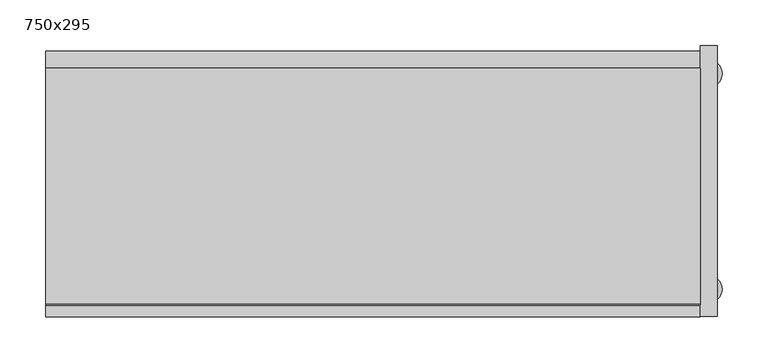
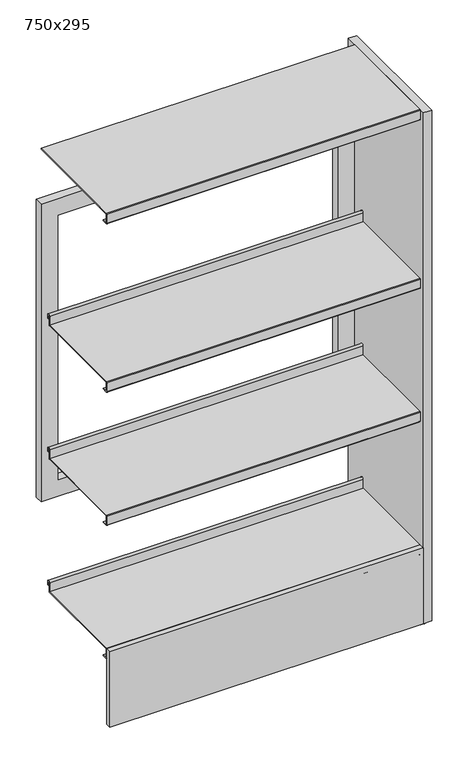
"""IFC4 building model written with IfcOpenShell, lengths in millimetres: furniture geometry, BK Library - Rondus EF - 1240 : 750x295."""

import ifcopenshell
import ifcopenshell.guid

model = None  # the IFC model being written
_history = None  # IfcOwnerHistory: only IFC2X3 demands one
_inside = {}  # id of a spatial element -> (the spatial element, [elements in it])
_under = {}  # id of a project, library or spatial element -> (it, [spatial elements below it])
_declared = {}  # id of a project -> (the project, [libraries it declares])
_typed = {}  # id of a type object -> (the type object, [elements of that type])
_made_of = {}  # id of a material, layer set ... -> (it, [elements and type objects made of it])


def new_model(schema):
    """Start an empty IFC model of exactly this schema.

    Asked for "IFC4X3", IfcOpenShell would pick the latest addendum, in which some entities
    have other attributes; the version numbers below select the first issue.
    IFC2X3 requires an IfcOwnerHistory on every rooted entity: one is made here for all.
    """
    global model, _history
    if schema == "IFC4X3":
        model = ifcopenshell.file(schema_version=(4, 3, 0, 0))
    else:
        model = ifcopenshell.file(schema=schema)
    _inside.clear()
    _under.clear()
    _declared.clear()
    _typed.clear()
    _made_of.clear()
    _history = None
    if model.schema == "IFC2X3":
        org = make("IfcOrganization", Name="unknown")
        user = make(
            "IfcPersonAndOrganization",
            ThePerson=make("IfcPerson", FamilyName="unknown"),
            TheOrganization=org,
        )
        app = make(
            "IfcApplication",
            ApplicationDeveloper=org,
            Version="unknown",
            ApplicationFullName="unknown",
            ApplicationIdentifier="unknown",
        )
        _history = make(
            "IfcOwnerHistory",
            OwningUser=user,
            OwningApplication=app,
            ChangeAction="ADDED",
            CreationDate=0,
        )
    return model


def make(cls, **values):
    """One entity of the class cls with the attributes given. An attribute that is None is left unset."""
    return model.create_entity(
        cls, **{name: value for name, value in values.items() if value is not None}
    )


def rooted(cls, **values):
    """An entity with a GlobalId (a new one), such as an element, a storey or a relation."""
    return make(cls, GlobalId=ifcopenshell.guid.new(), OwnerHistory=_history, **values)


def si_unit(unit_type, name, prefix=None):
    """IfcSIUnit, for example si_unit("LENGTHUNIT", "METRE", prefix="MILLI")."""
    return make("IfcSIUnit", UnitType=unit_type, Prefix=prefix, Name=name)


def assignment(units):
    """IfcUnitAssignment: the units of a project."""
    return None if units is None else make("IfcUnitAssignment", Units=units)


def point(xyz):
    """IfcCartesianPoint."""
    return None if xyz is None else make("IfcCartesianPoint", Coordinates=xyz)


def direction(xyz):
    """IfcDirection."""
    return None if xyz is None else make("IfcDirection", DirectionRatios=xyz)


def frame(location, z_axis=None, x_axis=None):
    """IfcAxis2Placement3D, a coordinate frame: its origin and axes. An axis left out is left unset."""
    return make(
        "IfcAxis2Placement3D",
        Location=point(location),
        Axis=direction(z_axis),
        RefDirection=direction(x_axis),
    )


def frame_2d(location, x_axis=None):
    """IfcAxis2Placement2D, a coordinate frame in the plane: its origin and x axis."""
    return make(
        "IfcAxis2Placement2D", Location=point(location), RefDirection=direction(x_axis)
    )


def origin():
    """The frame at (0, 0, 0) with its axes left unset."""
    return frame((0.0, 0.0, 0.0))


def origin_with_axes():
    """The frame at (0, 0, 0) with the z axis (0, 0, 1) and the x axis (1, 0, 0) written out."""
    return frame((0.0, 0.0, 0.0), z_axis=(0.0, 0.0, 1.0), x_axis=(1.0, 0.0, 0.0))


def place(relative_to, where):
    """IfcLocalPlacement: puts the frame where relative to a parent placement (None: the world)."""
    return make(
        "IfcLocalPlacement", PlacementRelTo=relative_to, RelativePlacement=where
    )


def context(
    kind, dimensions, precision=None, world=None, true_north=None, identifier=None
):
    """IfcGeometricRepresentationContext, for example the 3D "Model" context."""
    return make(
        "IfcGeometricRepresentationContext",
        ContextIdentifier=identifier,
        ContextType=kind,
        CoordinateSpaceDimension=dimensions,
        Precision=precision,
        WorldCoordinateSystem=world,
        TrueNorth=true_north,
    )


def project(units=None, contexts=None):
    """IfcProject with its units and contexts."""
    return rooted(
        "IfcProject",
        Name="project",
        RepresentationContexts=contexts,
        UnitsInContext=assignment(units),
    )


def spatial(cls, under=None, at=None, **own):
    """A site, building, storey or space (cls), placed at a placement, below another one or the project."""
    s = rooted(cls, ObjectPlacement=at, **own)
    if under is not None:
        _under.setdefault(under.id(), (under, []))[1].append(s)
    return s


def polyline(points):
    """IfcPolyline through the points."""
    return make("IfcPolyline", Points=[point(p) for p in points])


def circle_curve(where, radius):
    """IfcCircle in the frame where."""
    return make("IfcCircle", Position=where, Radius=radius)


def trimmed(basis, trim1, trim2, sense, master):
    """IfcTrimmedCurve: the piece of a basis curve between two trims."""
    return make(
        "IfcTrimmedCurve",
        BasisCurve=basis,
        Trim1=trim1,
        Trim2=trim2,
        SenseAgreement=sense,
        MasterRepresentation=master,
    )


def segment(curve, same_sense, transition):
    """IfcCompositeCurveSegment."""
    return make(
        "IfcCompositeCurveSegment",
        Transition=transition,
        SameSense=same_sense,
        ParentCurve=curve,
    )


def composite_curve(segments, self_intersect=None):
    """IfcCompositeCurve: segments joined end to end."""
    return make("IfcCompositeCurve", Segments=segments, SelfIntersect=self_intersect)


def outline(outer, holes=None, kind="AREA"):
    """IfcArbitraryClosedProfileDef: a profile drawn as a closed curve; with holes, ...WithVoids."""
    if holes is None:
        return make("IfcArbitraryClosedProfileDef", ProfileType=kind, OuterCurve=outer)
    return make(
        "IfcArbitraryProfileDefWithVoids",
        ProfileType=kind,
        OuterCurve=outer,
        InnerCurves=holes,
    )


def extrude(swept, where, along, depth):
    """IfcExtrudedAreaSolid: the profile swept, set in the frame where, extruded along a direction by depth."""
    return make(
        "IfcExtrudedAreaSolid",
        SweptArea=swept,
        Position=where,
        ExtrudedDirection=direction(along),
        Depth=depth,
    )


def shape(context_of_items, identifier, shape_type, items):
    """IfcShapeRepresentation: the items that make up one representation, for example the "Body"."""
    return make(
        "IfcShapeRepresentation",
        ContextOfItems=context_of_items,
        RepresentationIdentifier=identifier,
        RepresentationType=shape_type,
        Items=items,
    )


def source(mapping_origin, context_of_items, identifier, shape_type, items):
    """IfcRepresentationMap: a shape defined once, which mapped items show again and again."""
    return make(
        "IfcRepresentationMap",
        MappingOrigin=mapping_origin,
        MappedRepresentation=shape(context_of_items, identifier, shape_type, items),
    )


def transform(
    local_origin,
    x_axis=None,
    y_axis=None,
    z_axis=None,
    scale=None,
    scale2=None,
    scale3=None,
    uniform=True,
):
    """IfcCartesianTransformationOperator3D, or its non-uniform kind. x_axis, y_axis, z_axis: its Axis1, 2, 3."""
    if uniform:
        return make(
            "IfcCartesianTransformationOperator3D",
            Axis1=direction(x_axis),
            Axis2=direction(y_axis),
            LocalOrigin=point(local_origin),
            Scale=scale,
            Axis3=direction(z_axis),
        )
    return make(
        "IfcCartesianTransformationOperator3DnonUniform",
        Axis1=direction(x_axis),
        Axis2=direction(y_axis),
        LocalOrigin=point(local_origin),
        Scale=scale,
        Axis3=direction(z_axis),
        Scale2=scale2,
        Scale3=scale3,
    )


def mapped(mapping_source, mapping_target):
    """IfcMappedItem: shows the shape of a source again, moved by a transform."""
    return make(
        "IfcMappedItem", MappingSource=mapping_source, MappingTarget=mapping_target
    )


def made_of(thing, what):
    """Note that an element or type object is made of a material, layer set ...; save() writes the relation."""
    if what is not None:
        _made_of.setdefault(what.id(), (what, []))[1].append(thing)
    return thing


def element(
    cls,
    number,
    at=None,
    inside=None,
    cuts=None,
    type_object=None,
    material=None,
    context=None,
    identifier="Body",
    shape_type=None,
    held_by="IfcProductDefinitionShape",
    body=None,
    shapes=None,
    **own,
):
    """One element of the class cls, such as IfcWall. Its Tag is "e" and its number.

    at: its placement. inside: the storey or other place that contains it. cuts: it is an
    opening in that element (IfcRelVoidsElement). A single representation is given by context,
    identifier, shape_type and body (its items); several are given by shapes. held_by: the class
    of the entity that holds the representations. save() writes the other relations.
    """
    e = rooted(cls, Tag="e%d" % number, ObjectPlacement=at, **own)
    if body is not None:
        shapes = [shape(context, identifier, shape_type, body)]
    if shapes is not None:
        e.Representation = make(held_by, Representations=shapes)
    if inside is not None:
        _inside.setdefault(inside.id(), (inside, []))[1].append(e)
    if cuts is not None:
        rooted(
            "IfcRelVoidsElement", RelatingBuildingElement=cuts, RelatedOpeningElement=e
        )
    if type_object is not None:
        _typed.setdefault(type_object.id(), (type_object, []))[1].append(e)
    return made_of(e, material)


def aggregate(whole, parts):
    """IfcRelAggregates: a whole, such as a stair, and the parts it consists of."""
    return rooted("IfcRelAggregates", RelatingObject=whole, RelatedObjects=parts)


def save(model, path):
    """Write the relations noted so far, then the file.

    IfcRelAggregates (storeys below a building ...), IfcRelContainedInSpatialStructure (elements
    in a storey), IfcRelDefinesByType, IfcRelAssociatesMaterial and IfcRelDeclares: one each for
    every whole, place, type object, material and project.
    """
    for whole, parts in _under.values():
        aggregate(whole, parts)
    for where, things in _inside.values():
        rooted(
            "IfcRelContainedInSpatialStructure",
            RelatedElements=things,
            RelatingStructure=where,
        )
    for kind, things in _typed.values():
        rooted("IfcRelDefinesByType", RelatedObjects=things, RelatingType=kind)
    for what, things in _made_of.values():
        rooted("IfcRelAssociatesMaterial", RelatedObjects=things, RelatingMaterial=what)
    for by, libraries in _declared.values():
        rooted("IfcRelDeclares", RelatingContext=by, RelatedDefinitions=libraries)
    model.write(path)


def furniture_750x295_23b6f23a(model_context):
    return source(origin(), model_context, "Body", "SweptSolid", [
        extrude(outline(polyline([(1106.1999512, -356.0), (391.1999512, -356.0), (391.1999512, 356.0), (1106.1999512, 356.0), (1106.1999512, -356.0)]), holes=[polyline([(1066.1999514, -317.5), (1066.1999514, 317.5), (431.1999514, 317.5), (431.1999514, -317.5), (1066.1999514, -317.5)])]), frame((0.0, 123.0, 0.0), z_axis=(0.0, 1.0, 0.0), x_axis=(0.0, 0.0, 1.0)), (0.0, 0.0, 1.0), 19.0),
        extrude(outline(polyline([(356.0, -135.2476624), (356.0, -147.5), (-356.0, -147.5), (-356.0, -135.2476624), (356.0, -135.2476624)])), frame((0.0, 0.0, 13.6999998), z_axis=(0.0, 0.0, 1.0), x_axis=(1.0, 0.0, 0.0)), (0.0, 0.0, 1.0), 181.4999514),
        extrude(outline(composite_curve([segment(polyline([(123.0, 1240.0), (123.0, 1238.0), (-133.75, 1238.0), (-133.75, 1216.5), (-121.75, 1216.5), (-121.75, 1215.0), (-133.75, 1215.0)]), True, "CONTINUOUS"), segment(trimmed(circle_curve(frame_2d((-133.75, 1216.5)), 1.5), [point((-133.75, 1215.0))], [point((-135.25, 1216.5))], False, "CARTESIAN"), True, "CONTINUOUS"), segment(polyline([(-135.25, 1216.5), (-135.25, 1238.5)]), True, "CONTINUOUS"), segment(trimmed(circle_curve(frame_2d((-133.75, 1238.5)), 1.5), [point((-135.25, 1238.5))], [point((-133.75, 1240.0))], False, "CARTESIAN"), True, "CONTINUOUS"), segment(polyline([(-133.75, 1240.0), (123.0, 1240.0)]), True, "CONTINUOUS")], self_intersect=False)), frame((-356.0, 0.0, 0.0), z_axis=(1.0, 0.0, 0.0), x_axis=(0.0, 1.0, 0.0)), (0.0, 0.0, 1.0), 712.0),
        extrude(outline(composite_curve([segment(polyline([(89.75, 835.1999512), (89.75, 856.7196336)]), True, "CONTINUOUS"), segment(trimmed(circle_curve(frame_2d((93.25, 856.7196336)), 3.5), [point((89.75, 856.7196336))], [point((96.75, 856.7196336))], False, "CARTESIAN"), True, "CONTINUOUS"), segment(polyline([(96.75, 856.7196336), (96.75, 848.1999512), (95.25, 848.1999512), (95.25, 856.7020126)]), True, "CONTINUOUS"), segment(trimmed(circle_curve(frame_2d((93.25, 856.7020126)), 2.0), [point((95.25, 856.7020126))], [point((91.25, 856.7020126))], True, "CARTESIAN"), True, "CONTINUOUS"), segment(polyline([(91.25, 856.7020126), (91.25, 835.1547733)]), True, "CONTINUOUS"), segment(trimmed(circle_curve(frame_2d((89.7951779, 835.1547733)), 1.4548221), [point((91.25, 835.1547733))], [point((89.7951779, 833.6999512))], False, "CARTESIAN"), True, "CONTINUOUS"), segment(polyline([(89.7951779, 833.6999512), (-133.75, 833.6999512), (-133.75, 812.1999512), (-121.75, 812.1999512), (-121.75, 810.6999512), (-133.75, 810.6999512)]), True, "CONTINUOUS"), segment(trimmed(circle_curve(frame_2d((-133.75, 812.1999512)), 1.5), [point((-133.75, 810.6999512))], [point((-135.25, 812.1999512))], False, "CARTESIAN"), True, "CONTINUOUS"), segment(polyline([(-135.25, 812.1999512), (-135.25, 833.6999512)]), True, "CONTINUOUS"), segment(trimmed(circle_curve(frame_2d((-133.75, 833.6999512)), 1.5), [point((-135.25, 833.6999512))], [point((-133.75, 835.1999512))], False, "CARTESIAN"), True, "CONTINUOUS"), segment(polyline([(-133.75, 835.1999512), (89.75, 835.1999512)]), True, "CONTINUOUS")], self_intersect=False)), frame((-356.0, 0.0, 0.0), z_axis=(1.0, 0.0, 0.0), x_axis=(0.0, 1.0, 0.0)), (0.0, 0.0, 1.0), 712.0),
        extrude(outline(composite_curve([segment(polyline([(89.75, 515.1999512), (89.75, 536.7196336)]), True, "CONTINUOUS"), segment(trimmed(circle_curve(frame_2d((93.25, 536.7196336)), 3.5), [point((89.75, 536.7196336))], [point((96.75, 536.7196336))], False, "CARTESIAN"), True, "CONTINUOUS"), segment(polyline([(96.75, 536.7196336), (96.75, 528.1999512), (95.25, 528.1999512), (95.25, 536.7020126)]), True, "CONTINUOUS"), segment(trimmed(circle_curve(frame_2d((93.25, 536.7020126)), 2.0), [point((95.25, 536.7020126))], [point((91.25, 536.7020126))], True, "CARTESIAN"), True, "CONTINUOUS"), segment(polyline([(91.25, 536.7020126), (91.25, 515.1547733)]), True, "CONTINUOUS"), segment(trimmed(circle_curve(frame_2d((89.7951779, 515.1547733)), 1.4548221), [point((91.25, 515.1547733))], [point((89.7951779, 513.6999512))], False, "CARTESIAN"), True, "CONTINUOUS"), segment(polyline([(89.7951779, 513.6999512), (-133.75, 513.6999512), (-133.75, 492.1999512), (-121.75, 492.1999512), (-121.75, 490.6999512), (-133.75, 490.6999512)]), True, "CONTINUOUS"), segment(trimmed(circle_curve(frame_2d((-133.75, 492.1999512)), 1.5), [point((-133.75, 490.6999512))], [point((-135.25, 492.1999512))], False, "CARTESIAN"), True, "CONTINUOUS"), segment(polyline([(-135.25, 492.1999512), (-135.25, 513.6999512)]), True, "CONTINUOUS"), segment(trimmed(circle_curve(frame_2d((-133.75, 513.6999512)), 1.5), [point((-135.25, 513.6999512))], [point((-133.75, 515.1999512))], False, "CARTESIAN"), True, "CONTINUOUS"), segment(polyline([(-133.75, 515.1999512), (89.75, 515.1999512)]), True, "CONTINUOUS")], self_intersect=False)), frame((-356.0, 0.0, 0.0), z_axis=(1.0, 0.0, 0.0), x_axis=(0.0, 1.0, 0.0)), (0.0, 0.0, 1.0), 712.0),
        extrude(outline(composite_curve([segment(polyline([(89.75, 195.1999512), (89.75, 216.7196336)]), True, "CONTINUOUS"), segment(trimmed(circle_curve(frame_2d((93.25, 216.7196336)), 3.5), [point((89.75, 216.7196336))], [point((96.75, 216.7196336))], False, "CARTESIAN"), True, "CONTINUOUS"), segment(polyline([(96.75, 216.7196336), (96.75, 208.1999512), (95.25, 208.1999512), (95.25, 216.7020126)]), True, "CONTINUOUS"), segment(trimmed(circle_curve(frame_2d((93.25, 216.7020126)), 2.0), [point((95.25, 216.7020126))], [point((91.25, 216.7020126))], True, "CARTESIAN"), True, "CONTINUOUS"), segment(polyline([(91.25, 216.7020126), (91.25, 195.1547733)]), True, "CONTINUOUS"), segment(trimmed(circle_curve(frame_2d((89.7951779, 195.1547733)), 1.4548221), [point((91.25, 195.1547733))], [point((89.7951779, 193.6999512))], False, "CARTESIAN"), True, "CONTINUOUS"), segment(polyline([(89.7951779, 193.6999512), (-133.75, 193.6999512), (-133.75, 172.1999512), (-121.75, 172.1999512), (-121.75, 170.6999512), (-133.75, 170.6999512)]), True, "CONTINUOUS"), segment(trimmed(circle_curve(frame_2d((-133.75, 172.1999512)), 1.5), [point((-133.75, 170.6999512))], [point((-135.25, 172.1999512))], False, "CARTESIAN"), True, "CONTINUOUS"), segment(polyline([(-135.25, 172.1999512), (-135.25, 193.6999512)]), True, "CONTINUOUS"), segment(trimmed(circle_curve(frame_2d((-133.75, 193.6999512)), 1.5), [point((-135.25, 193.6999512))], [point((-133.75, 195.1999512))], False, "CARTESIAN"), True, "CONTINUOUS"), segment(polyline([(-133.75, 195.1999512), (89.75, 195.1999512)]), True, "CONTINUOUS")], self_intersect=False)), frame((-356.0, 0.0, 0.0), z_axis=(1.0, 0.0, 0.0), x_axis=(0.0, 1.0, 0.0)), (0.0, 0.0, 1.0), 712.0),
        extrude(outline(polyline([(356.0, 147.5), (375.0, 147.5), (375.0, -147.5), (356.0, -147.5), (356.0, 147.5)])), frame((0.0, 0.0, 13.6999998), z_axis=(0.0, 0.0, 1.0), x_axis=(1.0, 0.0, 0.0)), (0.0, 0.0, 1.0), 1226.3000002),
        extrude(outline(composite_curve([segment(trimmed(circle_curve(frame_2d((365.5005427, 117.4952633)), 14.4994573), [point((380.0, 117.4952633))], [point((351.0010853, 117.4952633))], False, "CARTESIAN"), True, "CONTINUOUS"), segment(trimmed(circle_curve(frame_2d((365.5005427, 117.4952633)), 14.4994573), [point((351.0010853, 117.4952633))], [point((380.0, 117.4952633))], False, "CARTESIAN"), True, "CONTINUOUS")], self_intersect=False)), origin_with_axes(), (0.0, 0.0, 1.0), 13.6999998),
        extrude(outline(composite_curve([segment(trimmed(circle_curve(frame_2d((365.5005427, -117.4952633)), 14.4994573), [point((380.0, -117.4952633))], [point((351.0010853, -117.4952633))], False, "CARTESIAN"), True, "CONTINUOUS"), segment(trimmed(circle_curve(frame_2d((365.5005427, -117.4952633)), 14.4994573), [point((351.0010853, -117.4952633))], [point((380.0, -117.4952633))], False, "CARTESIAN"), True, "CONTINUOUS")], self_intersect=False)), origin_with_axes(), (0.0, 0.0, 1.0), 13.6999998),
    ])


if __name__ == "__main__":
    model = new_model("IFC4")
    model_context = context("Model", 3, world=origin())
    ifc_project = project(units=[si_unit("LENGTHUNIT", "METRE", prefix="MILLI")], contexts=[model_context])
    site = spatial("IfcSite", under=ifc_project)
    building = spatial("IfcBuilding", under=site)
    placement = place(None, origin())
    furniture_750x295_shape = furniture_750x295_23b6f23a(model_context)
    element("IfcFurniture", 1, ObjectType="BK Library - Rondus EF - 1240 : 750x295", at=placement, inside=building, context=model_context, shape_type="MappedRepresentation", body=[
        mapped(furniture_750x295_shape, transform((0.0, 0.0, 0.0), x_axis=(1.0, 0.0, 0.0), y_axis=(0.0, 1.0, 0.0), z_axis=(0.0, 0.0, 1.0))),
    ])
    save(model, "model.ifc")
